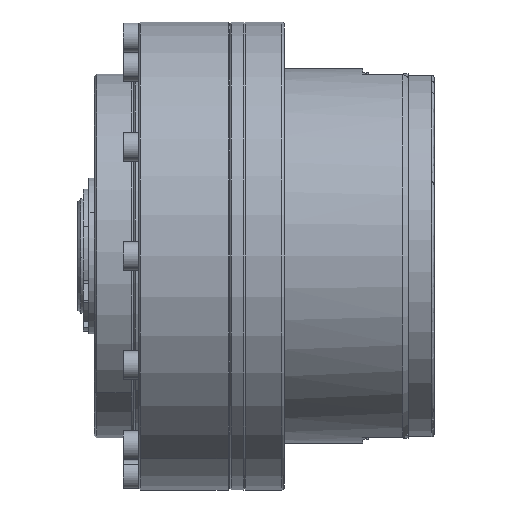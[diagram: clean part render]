
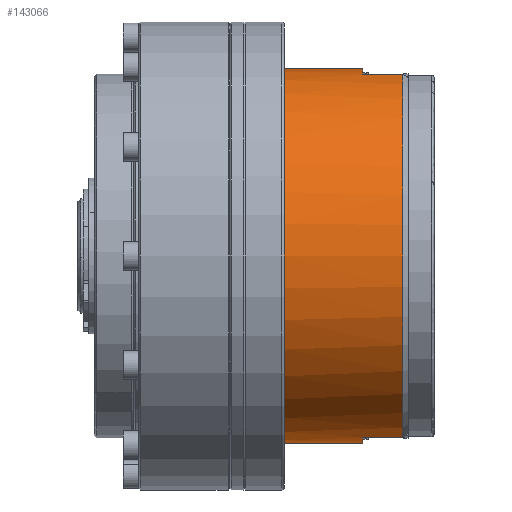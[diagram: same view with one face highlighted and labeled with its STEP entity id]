
A CAD part, left-side view. The second image highlights one B-rep face of the part: STEP entity #143066.
In plain terms, the highlighted cylindrical face has radius 36 mm (diameter 72 mm), a partial arc.
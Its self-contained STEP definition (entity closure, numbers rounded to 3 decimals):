
#1719 = CIRCLE ( 'NONE', #28331, 36. ) ;
#2507 = DIRECTION ( 'NONE',  ( 0., 1., 0. ) ) ;
#3484 = VERTEX_POINT ( 'NONE', #59877 ) ;
#6727 = CARTESIAN_POINT ( 'NONE',  ( 0., 8.7, -36. ) ) ;
#11633 = LINE ( 'NONE', #22861, #75477 ) ;
#16961 = CARTESIAN_POINT ( 'NONE',  ( 0., 8.7, 36. ) ) ;
#17841 = ORIENTED_EDGE ( 'NONE', *, *, #63368, .T. ) ;
#18520 = CARTESIAN_POINT ( 'NONE',  ( 0., 23.8, 36. ) ) ;
#22763 = CARTESIAN_POINT ( 'NONE',  ( -8.743, 8.7, 34.922 ) ) ;
#22861 = CARTESIAN_POINT ( 'NONE',  ( 0., 19., -36. ) ) ;
#23440 = EDGE_CURVE ( 'NONE', #128886, #117797, #131591, .T. ) ;
#23941 = CARTESIAN_POINT ( 'NONE',  ( -8.743, 8.7, -34.922 ) ) ;
#26550 = CARTESIAN_POINT ( 'NONE',  ( -5.29, 8.7, 35.675 ) ) ;
#26558 = DIRECTION ( 'NONE',  ( 0., 1., 0. ) ) ;
#27109 = ORIENTED_EDGE ( 'NONE', *, *, #91891, .T. ) ;
#28331 = AXIS2_PLACEMENT_3D ( 'NONE', #127547, #126620, #126146 ) ;
#32782 = CARTESIAN_POINT ( 'NONE',  ( -5.29, 8.7, -35.675 ) ) ;
#33722 = CARTESIAN_POINT ( 'NONE',  ( -3.532, 8.7, -35.892 ) ) ;
#37688 = DIRECTION ( 'NONE',  ( 0., 0., -1. ) ) ;
#37824 = LINE ( 'NONE', #137249, #124078 ) ;
#38055 = CARTESIAN_POINT ( 'NONE',  ( -1.766, 8.7, 36. ) ) ;
#38780 = DIRECTION ( 'NONE',  ( 0., -1., 0. ) ) ;
#38990 = CARTESIAN_POINT ( 'NONE',  ( -3.532, 8.7, 35.892 ) ) ;
#40333 = CARTESIAN_POINT ( 'NONE',  ( 0., 8.7, 36. ) ) ;
#42242 = CARTESIAN_POINT ( 'NONE',  ( 0., 23.8, -36. ) ) ;
#43366 = CARTESIAN_POINT ( 'NONE',  ( 0., 8.7, -36. ) ) ;
#44789 = CARTESIAN_POINT ( 'NONE',  ( -8.743, 8.7, -34.922 ) ) ;
#45275 = CARTESIAN_POINT ( 'NONE',  ( -7.03, 8.7, -35.351 ) ) ;
#48217 = B_SPLINE_CURVE_WITH_KNOTS ( 'NONE', 5,
 ( #44789, #45275, #32782, #33722, #109509, #43366 ),
 .UNSPECIFIED., .F., .F.,
 ( 6, 6 ),
 ( 0., 12.489 ),
 .UNSPECIFIED. ) ;
#49175 = CARTESIAN_POINT ( 'NONE',  ( 0., 1., 0. ) ) ;
#50789 = AXIS2_PLACEMENT_3D ( 'NONE', #59486, #115384, #37688 ) ;
#52183 = DIRECTION ( 'NONE',  ( 0., -1., 0. ) ) ;
#55488 = FACE_OUTER_BOUND ( 'NONE', #78821, .T. ) ;
#59486 = CARTESIAN_POINT ( 'NONE',  ( 0., 19., 0. ) ) ;
#59877 = CARTESIAN_POINT ( 'NONE',  ( -8.743, 1., -34.922 ) ) ;
#60000 = EDGE_CURVE ( 'NONE', #108843, #135548, #48217, .T. ) ;
#60330 = DIRECTION ( 'NONE',  ( 1., 0., 0. ) ) ;
#60802 = CARTESIAN_POINT ( 'NONE',  ( -8.743, 8.7, 34.922 ) ) ;
#63202 = ORIENTED_EDGE ( 'NONE', *, *, #109575, .F. ) ;
#63368 = EDGE_CURVE ( 'NONE', #91123, #71175, #1719, .T. ) ;
#65474 = ORIENTED_EDGE ( 'NONE', *, *, #23440, .T. ) ;
#69170 = B_SPLINE_CURVE_WITH_KNOTS ( 'NONE', 5,
 ( #16961, #38055, #38990, #26550, #115740, #60802 ),
 .UNSPECIFIED., .F., .F.,
 ( 6, 6 ),
 ( 0., 12.489 ),
 .UNSPECIFIED. ) ;
#70139 = CIRCLE ( 'NONE', #89867, 36. ) ;
#71175 = VERTEX_POINT ( 'NONE', #42242 ) ;
#75477 = VECTOR ( 'NONE', #89378, 1000. ) ;
#75818 = VECTOR ( 'NONE', #52183, 1000. ) ;
#76670 = EDGE_CURVE ( 'NONE', #3484, #128886, #70139, .T. ) ;
#78821 = EDGE_LOOP ( 'NONE', ( #63202, #17841, #27109, #107904, #105530, #81377, #65474, #120799 ) ) ;
#81377 = ORIENTED_EDGE ( 'NONE', *, *, #76670, .T. ) ;
#85836 = VERTEX_POINT ( 'NONE', #40333 ) ;
#85877 = CARTESIAN_POINT ( 'NONE',  ( -8.743, 19., -34.922 ) ) ;
#89378 = DIRECTION ( 'NONE',  ( 0., -1., 0. ) ) ;
#89867 = AXIS2_PLACEMENT_3D ( 'NONE', #49175, #26558, #60330 ) ;
#91123 = VERTEX_POINT ( 'NONE', #18520 ) ;
#91303 = LINE ( 'NONE', #85877, #75818 ) ;
#91891 = EDGE_CURVE ( 'NONE', #71175, #135548, #11633, .T. ) ;
#93337 = CARTESIAN_POINT ( 'NONE',  ( -8.743, 1., 34.922 ) ) ;
#101152 = EDGE_CURVE ( 'NONE', #85836, #117797, #69170, .T. ) ;
#105530 = ORIENTED_EDGE ( 'NONE', *, *, #135165, .T. ) ;
#107904 = ORIENTED_EDGE ( 'NONE', *, *, #60000, .F. ) ;
#108843 = VERTEX_POINT ( 'NONE', #23941 ) ;
#109509 = CARTESIAN_POINT ( 'NONE',  ( -1.766, 8.7, -36. ) ) ;
#109575 = EDGE_CURVE ( 'NONE', #91123, #85836, #37824, .T. ) ;
#114251 = CYLINDRICAL_SURFACE ( 'NONE', #50789, 36. ) ;
#115384 = DIRECTION ( 'NONE',  ( 0., -1., 0. ) ) ;
#115740 = CARTESIAN_POINT ( 'NONE',  ( -7.03, 8.7, 35.351 ) ) ;
#117797 = VERTEX_POINT ( 'NONE', #22763 ) ;
#120799 = ORIENTED_EDGE ( 'NONE', *, *, #101152, .F. ) ;
#124078 = VECTOR ( 'NONE', #38780, 1000. ) ;
#126146 = DIRECTION ( 'NONE',  ( 1., 0., 0. ) ) ;
#126620 = DIRECTION ( 'NONE',  ( 0., -1., 0. ) ) ;
#127547 = CARTESIAN_POINT ( 'NONE',  ( 0., 23.8, 0. ) ) ;
#128133 = VECTOR ( 'NONE', #2507, 1000. ) ;
#128886 = VERTEX_POINT ( 'NONE', #93337 ) ;
#131591 = LINE ( 'NONE', #134471, #128133 ) ;
#134471 = CARTESIAN_POINT ( 'NONE',  ( -8.743, 19., 34.922 ) ) ;
#135165 = EDGE_CURVE ( 'NONE', #108843, #3484, #91303, .T. ) ;
#135548 = VERTEX_POINT ( 'NONE', #6727 ) ;
#137249 = CARTESIAN_POINT ( 'NONE',  ( 0., 19., 36. ) ) ;
#143066 = ADVANCED_FACE ( 'NONE', ( #55488 ), #114251, .T. ) ;
